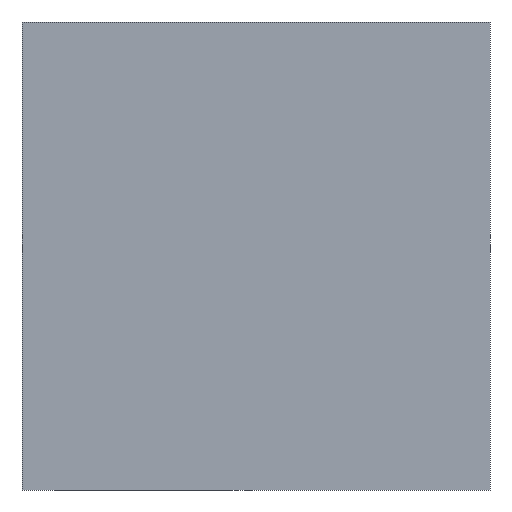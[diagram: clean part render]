
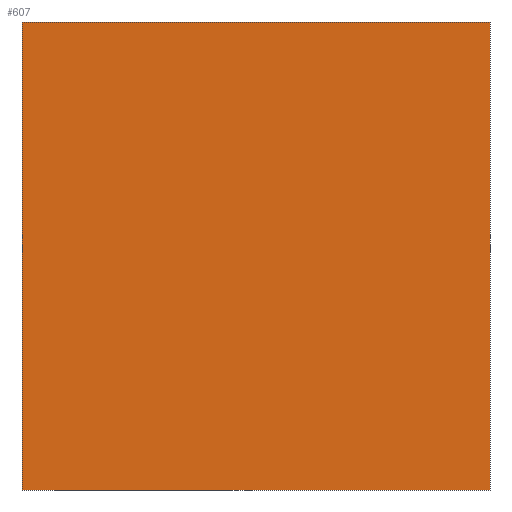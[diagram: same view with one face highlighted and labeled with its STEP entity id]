
A CAD part, front view. The second image highlights one B-rep face of the part: STEP entity #607.
In plain terms, the highlighted planar face has unit normal (0, -1, 0).
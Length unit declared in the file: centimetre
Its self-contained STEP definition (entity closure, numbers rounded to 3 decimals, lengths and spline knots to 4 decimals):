
#34 = DIRECTION ( 'NONE',  ( 0., 0., -1. ) ) ;
#74 = DIRECTION ( 'NONE',  ( 0., 0., 1. ) ) ;
#89 = LINE ( 'NONE', #149, #564 ) ;
#92 = EDGE_CURVE ( 'NONE', #104, #494, #532, .T. ) ;
#96 = VECTOR ( 'NONE', #165, 100. ) ;
#104 = VERTEX_POINT ( 'NONE', #516 ) ;
#107 = CARTESIAN_POINT ( 'NONE',  ( 1000., 0., 0. ) ) ;
#121 = CARTESIAN_POINT ( 'NONE',  ( 0., 0., 0. ) ) ;
#123 = LINE ( 'NONE', #244, #96 ) ;
#140 = CARTESIAN_POINT ( 'NONE',  ( 0., 0., 1000. ) ) ;
#144 = CARTESIAN_POINT ( 'NONE',  ( 1000., 0., 1000. ) ) ;
#149 = CARTESIAN_POINT ( 'NONE',  ( 0., 0., 1000. ) ) ;
#165 = DIRECTION ( 'NONE',  ( 0., 0., -1. ) ) ;
#169 = VECTOR ( 'NONE', #238, 100. ) ;
#238 = DIRECTION ( 'NONE',  ( 1., 0., 0. ) ) ;
#239 = CARTESIAN_POINT ( 'NONE',  ( 0., 0., 1000. ) ) ;
#244 = CARTESIAN_POINT ( 'NONE',  ( 1000., 0., 1000. ) ) ;
#279 = EDGE_CURVE ( 'NONE', #104, #481, #89, .T. ) ;
#283 = VECTOR ( 'NONE', #623, 100. ) ;
#287 = VERTEX_POINT ( 'NONE', #107 ) ;
#336 = ORIENTED_EDGE ( 'NONE', *, *, #279, .T. ) ;
#343 = ORIENTED_EDGE ( 'NONE', *, *, #92, .F. ) ;
#347 = AXIS2_PLACEMENT_3D ( 'NONE', #140, #412, #74 ) ;
#357 = EDGE_CURVE ( 'NONE', #494, #287, #123, .T. ) ;
#370 = ORIENTED_EDGE ( 'NONE', *, *, #670, .T. ) ;
#402 = LINE ( 'NONE', #121, #169 ) ;
#412 = DIRECTION ( 'NONE',  ( 0., 1., 0. ) ) ;
#421 = PLANE ( 'NONE',  #347 ) ;
#481 = VERTEX_POINT ( 'NONE', #627 ) ;
#494 = VERTEX_POINT ( 'NONE', #144 ) ;
#516 = CARTESIAN_POINT ( 'NONE',  ( 0., 0., 1000. ) ) ;
#532 = LINE ( 'NONE', #239, #283 ) ;
#564 = VECTOR ( 'NONE', #34, 100. ) ;
#589 = EDGE_LOOP ( 'NONE', ( #370, #694, #343, #336 ) ) ;
#607 = ADVANCED_FACE ( 'NONE', ( #628 ), #421, .F. ) ;
#623 = DIRECTION ( 'NONE',  ( 1., 0., 0. ) ) ;
#627 = CARTESIAN_POINT ( 'NONE',  ( 0., 0., 0. ) ) ;
#628 = FACE_OUTER_BOUND ( 'NONE', #589, .T. ) ;
#670 = EDGE_CURVE ( 'NONE', #481, #287, #402, .T. ) ;
#694 = ORIENTED_EDGE ( 'NONE', *, *, #357, .F. ) ;
